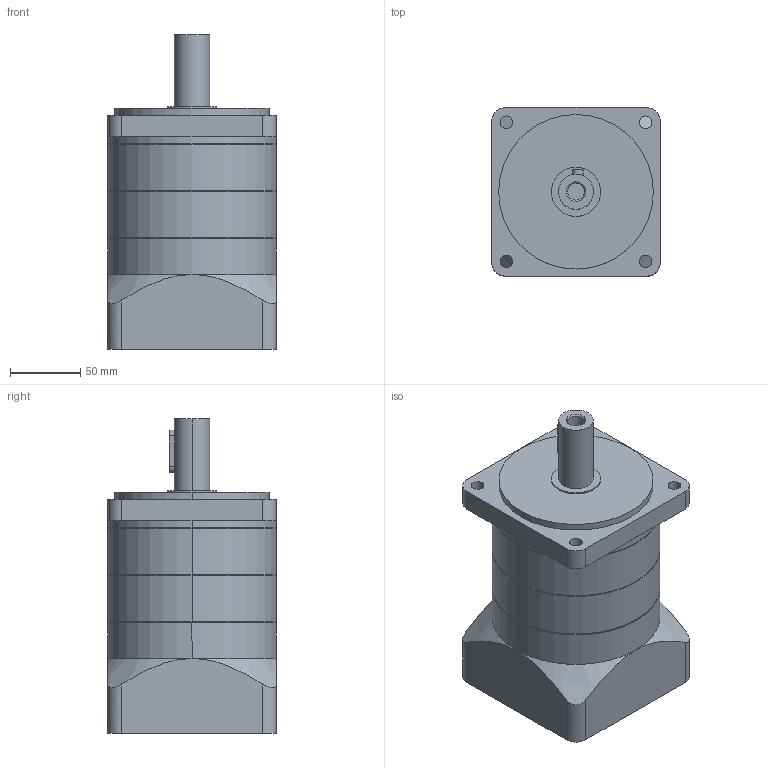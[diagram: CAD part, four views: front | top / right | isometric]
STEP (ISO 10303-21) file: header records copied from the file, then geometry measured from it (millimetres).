
FILE_DESCRIPTION (( 'STEP AP203' ), '1' );
FILE_NAME ('SB120-L2.STEP', '2023-02-09T00:33:30', ( 'SkyUser' ), ( 'ITianKong.Com' ), 'SwSTEP 2.0', 'SolidWorks 2013', '' );
FILE_SCHEMA (( 'CONFIG_CONTROL_DESIGN' ));
Length unit declared in the file: millimetre
Products named in the file (1): SB120-L2
Bounding box: 120 x 120 x 223.5 mm (x, y, z)
Volume: 1818798.2 mm3; surface area: 208084.3 mm2
Topology: 5 solids, 5 shells, 104 faces, 224 edges, 142 vertices
Faces by surface type: cylinder 52, plane 36, cone 16
Entity records: 3265 total; most frequent: CARTESIAN_POINT 833, DIRECTION 532, ORIENTED_EDGE 448, EDGE_CURVE 224, AXIS2_PLACEMENT_3D 219, VERTEX_POINT 142, EDGE_LOOP 126, CIRCLE 114
